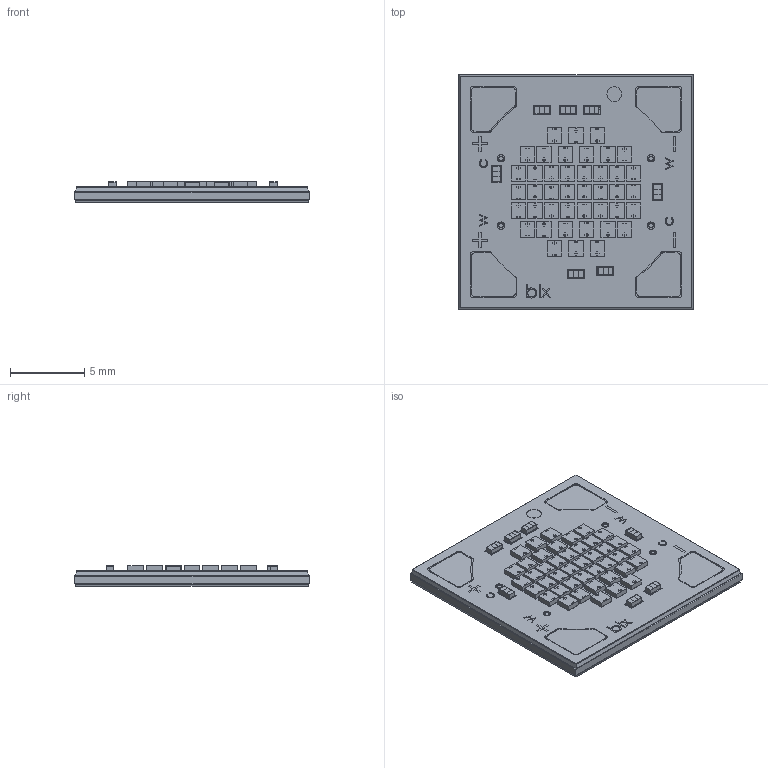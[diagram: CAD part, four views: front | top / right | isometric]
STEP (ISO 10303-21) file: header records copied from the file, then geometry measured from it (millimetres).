
FILE_DESCRIPTION (( 'STEP AP214' ), '1' );
FILE_NAME ('55-001189 Single Unit.STEP', '2017-07-05T23:42:58', ( '' ), ( '' ), 'SwSTEP 2.0', 'SolidWorks 2017', '' );
FILE_SCHEMA (( 'AUTOMOTIVE_DESIGN' ));
Length unit declared in the file: millimetre
Products named in the file (2): 55-001189 Single Unit
Bounding box: 15.85 x 15.85 x 1.4 mm (x, y, z)
Volume: 271.5 mm3; surface area: 1359.2 mm2
Topology: 309 solids, 309 shells, 4906 faces, 11940 edges, 7698 vertices
Faces by surface type: plane 4335, cylinder 407, sphere 140, bspline 24
Entity records: 197877 total; most frequent: CARTESIAN_POINT 26152, ORIENTED_EDGE 23600, DIRECTION 22100, EDGE_CURVE 11800, VECTOR 11016, LINE 11016, VERTEX_POINT 7698, AXIS2_PLACEMENT_3D 5542
